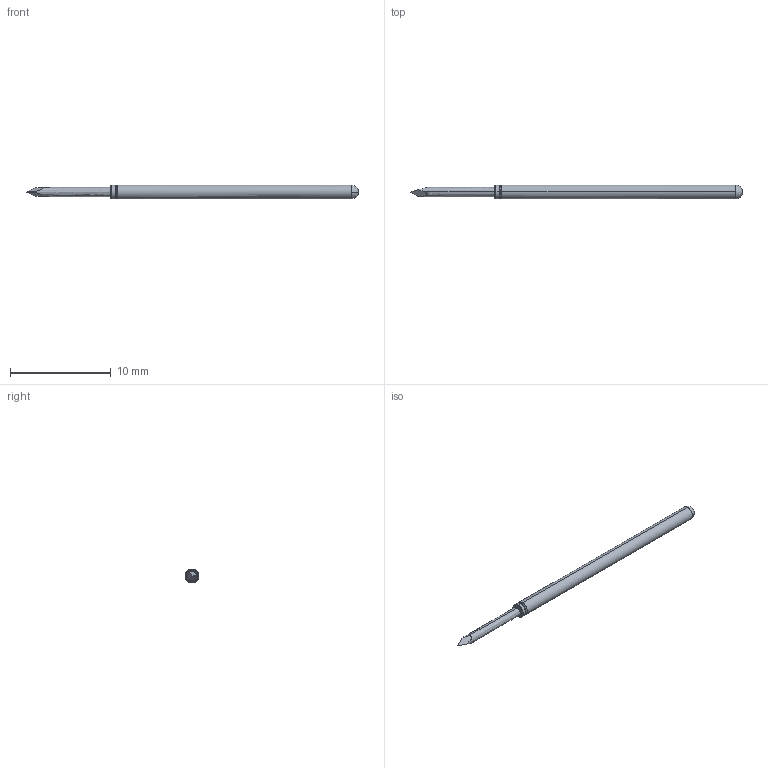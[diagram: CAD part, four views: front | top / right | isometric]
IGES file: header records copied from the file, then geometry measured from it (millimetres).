
Start section: SolidWorks IGES file using analytic representation for surfaces
Global section: file name: \\CODA-VM-SBS\RedirectedFolders\georged\My Documents\Coda\PA Series\Website\PA4T-041.IGS; native system: SolidWorks 2022; preprocessor: SolidWorks 2022; author: GeorgeD; date: 220711.152757; units: inch
Bounding box: 33.02 x 1.37 x 1.37 mm (x, y, z)
Surface area: 129.7 mm2 (no closed solid volume)
Topology: 0 solids, 0 shells, 21 faces, 170 edges, 170 vertices
Faces by surface type: bspline 21
